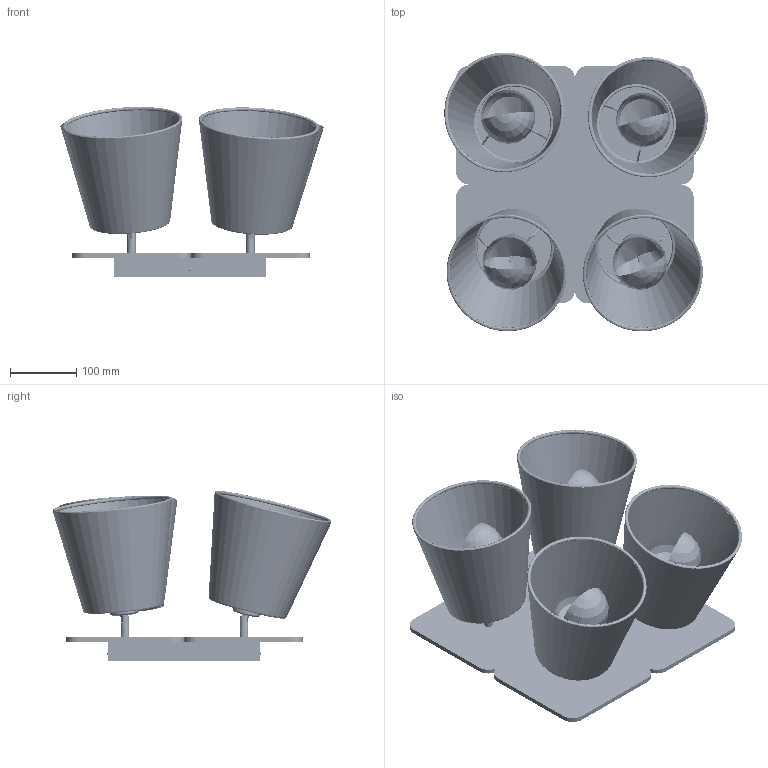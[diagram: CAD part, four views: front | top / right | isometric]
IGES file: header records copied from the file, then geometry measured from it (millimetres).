
Start section: SolidWorks IGES file using analytic representation for surfaces
Global section: file name: E:\3D lampy\Awinion\Awinion_9716\Awinion_9716.IGS; native system: SolidWorks 2016; preprocessor: SolidWorks 2016; author: Asia; date: 170623.145410; units: millimetre
Bounding box: 398.78 x 422.05 x 257.8 mm (x, y, z)
Surface area: 1519079.8 mm2 (no closed solid volume)
Topology: 0 solids, 0 shells, 1487 faces, 23520 edges, 23516 vertices
Faces by surface type: revolution 840, bspline 647
